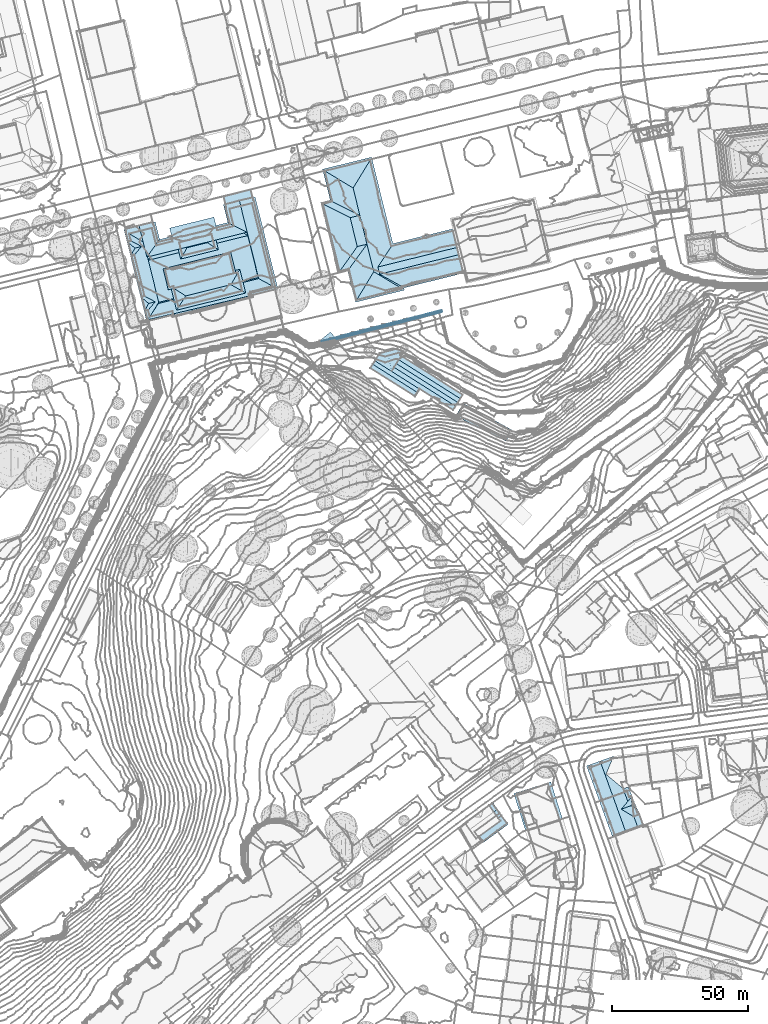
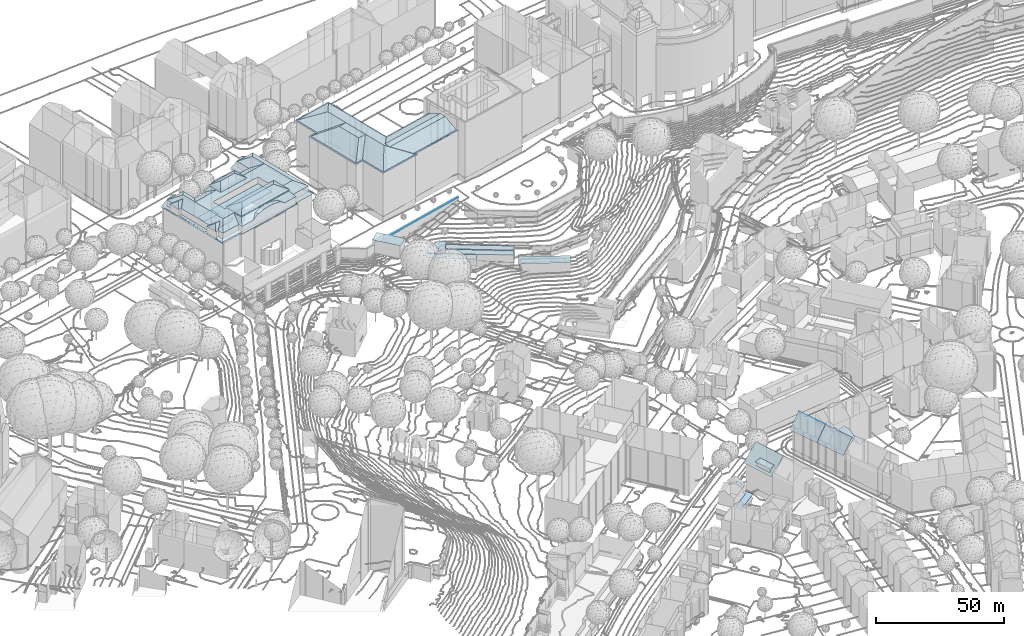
# Not in any storey, part 78 of 477: 21 roofs.
"""IFC4 building model written with IfcOpenShell, lengths in metres."""

from ifc_helpers import new_model, si_unit, frame, origin_with_axes, place, context, subcontext, project, spatial, polygons, element, save


model = new_model("IFC4")

# Units and contexts
model_context = context("Model", 3, precision=1e-05, world=origin_with_axes())
body_context = subcontext(model_context, "Body", "Model", "MODEL_VIEW")
ifc_project = project(units=[si_unit("AREAUNIT", "SQUARE_METRE"), si_unit("LENGTHUNIT", "METRE")], contexts=[model_context])

# Sites, building
site_1_placement = place(None, origin_with_axes())
site_1 = spatial("IfcSite", under=ifc_project, at=site_1_placement, Name="Topoexport Site")
site_2_placement = place(site_1_placement, origin_with_axes())
site_2 = spatial("IfcSite", under=site_1, at=site_2_placement, Name="TPX_BUILDINGS")
building_1_placement = place(site_2_placement, frame((211.8297320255, 101.9383160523, 526.7541), z_axis=(0.0, 0.0, 1.0), x_axis=(1.0, 0.0, 0.0)))
building_1 = spatial("IfcBuilding", under=site_2, at=building_1_placement, Name="Building 18", CompositionType="ELEMENT")

# Roof
roof_1_placement = place(None, frame((211.8297320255, 101.9383160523, 526.7541), z_axis=(0.0, 0.0, 1.0), x_axis=(1.0, 0.0, 0.0)))
element("IfcRoof", 1, at=roof_1_placement, inside=building_1, Name="Roof 59", context=body_context, shape_type="Tessellation", body=[
    polygons([(205.8740000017, 229.5947000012, 13.5498), (166.9350000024, 219.5927999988, 13.5499), (166.575000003, 220.0331999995, 13.5499), (169.6170000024, 220.9891999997, 13.5499), (161.3360000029, 218.8623000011, 13.5499), (205.7030000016, 230.2597000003, 13.5498)], [[[3, 2, 1]], [[5, 3, 4]], [[3, 6, 4]], [[6, 3, 1]]]),
])

# Building
building_2_placement = place(site_2_placement, frame((424.3367320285, 142.6277160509, 499.4686), z_axis=(0.0, 0.0, 1.0), x_axis=(1.0, 0.0, 0.0)))
building_2 = spatial("IfcBuilding", under=site_2, at=building_2_placement, Name="Building 62", CompositionType="ELEMENT")

# Roofs
roof_2_placement = place(None, frame((424.3367320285, 142.6277160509, 499.4686), z_axis=(0.0, 0.0, 1.0), x_axis=(1.0, 0.0, 0.0)))
element("IfcRoof", 2, at=roof_2_placement, inside=building_2, Name="Roof 1", context=body_context, shape_type="Tessellation", body=[
    polygons([(7.868999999, -4.5262999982, 5.2045), (8.1849999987, -5.5594999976, 5.0315), (7.9599999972, -5.2518999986, 5.0955), (7.5859999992, -4.740199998, 5.2025), (14.675999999, 2.452200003, 5.4764), (6.9169999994, -3.2236000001, 5.4764), (17.4479999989, 1.2159000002, 5.0315), (15.050999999, 4.3672000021, 5.7004), (14.4489999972, 5.3145000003, 5.8894), (13.8949999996, 3.5215000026, 5.7004), (14.3859999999, 5.2675999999, 5.8894), (7.8849999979, -5.1503999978, 5.1075)], [[[3, 2, 1]], [[1, 4, 3]], [[6, 1, 5]], [[2, 7, 1]], [[5, 7, 8]], [[7, 5, 1]], [[8, 7, 9]], [[5, 8, 10]], [[11, 8, 9]], [[4, 12, 3]]]),
])
roof_3_placement = place(None, frame((424.3367320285, 142.6277160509, 499.4686), z_axis=(0.0, 0.0, 1.0), x_axis=(1.0, 0.0, 0.0)))
element("IfcRoof", 3, at=roof_3_placement, inside=building_2, Name="Roof 3", context=body_context, shape_type="Tessellation", body=[
    polygons([(11.8349999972, 8.7226999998, 7.8742), (12.2349999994, 5.7920000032, 9.1091), (10.3319999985, 8.3916000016, 7.6103), (11.75, 9.3476999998, 7.6103), (13.6119999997, 6.8008000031, 9.1091), (15.2739999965, 4.5313000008, 7.6102), (15.0859999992, 4.3925999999, 7.6102), (15.050999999, 4.3672000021, 7.6102), (13.8949999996, 3.5215000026, 7.6102)], [[[3, 2, 1]], [[4, 3, 1]], [[2, 5, 1]], [[5, 4, 1]], [[7, 6, 5]], [[8, 7, 5]], [[5, 9, 8]], [[2, 9, 5]]]),
])

# Building
building_3_placement = place(site_2_placement, frame((444.9497320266, 154.9236160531, 498.9646), z_axis=(0.0, 0.0, 1.0), x_axis=(1.0, 0.0, 0.0)))
building_3 = spatial("IfcBuilding", under=site_2, at=building_3_placement, Name="Building 70", CompositionType="ELEMENT")

# Roof
roof_4_placement = place(None, frame((444.9497320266, 154.9236160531, 498.9646), z_axis=(0.0, 0.0, 1.0), x_axis=(1.0, 0.0, 0.0)))
element("IfcRoof", 4, at=roof_4_placement, inside=building_3, Name="Roof 0", context=body_context, shape_type="Tessellation", body=[
    polygons([(0.2419999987, 0.6563000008, 13.9397), (1.8170000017, -5.2655999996, 13.7497), (-1.1059999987, 0.2314999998, 12.9798), (0.4070000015, 0.1338, 13.9397), (2.0839999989, -5.1816000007, 13.9397), (4.2390000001, -13.3515000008, 13.6667), (3.3390000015, -13.8632000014, 12.9798), (4.3049999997, -13.558600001, 13.6667), (3.8170000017, -11.6053999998, 13.7497), (4.0839999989, -11.5214000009, 13.9397), (4.6229999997, -13.2303999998, 13.9397), (7.1570000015, -12.4306000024, 16.5164), (10.1180000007, -11.7256000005, 19.4591), (7.2230000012, -12.6385999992, 16.5164), (10.0529999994, -11.5175000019, 19.4591), (4.0029999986, -4.0516999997, 16.0445), (6.3040000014, -11.3456999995, 16.0445), (6.0729999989, -11.4189000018, 15.8095), (5.9230000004, -10.9422999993, 15.8095), (5.6719999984, 2.3691999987, 19.4592), (5.813000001, 1.9208999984, 19.4592), (3.7719999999, -4.125, 15.8095), (3.9230000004, -4.6006000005, 15.8095), (12.8110000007, -10.6493999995, 16.6554), (12.8770000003, -10.8553999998, 16.6554), (11.2199999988, 3.7080000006, 13.9397), (15.4829999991, -9.8056000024, 13.9397), (11.1020000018, 4.0810999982, 13.9397), (15.8880000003, -9.9061999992, 13.6977), (15.8229999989, -9.6992000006, 13.6967), (16.8960000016, -9.5879000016, 12.9798), (12.4510000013, 4.5068999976, 12.9798), (3.4910000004, -12.2334000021, 15.6195), (1.1900000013, -4.9384000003, 15.6195)], [[[3, 2, 1]], [[1, 2, 4]], [[5, 4, 2]], [[2, 3, 6]], [[8, 6, 7]], [[9, 2, 6]], [[9, 11, 10]], [[9, 6, 11]], [[6, 3, 7]], [[14, 13, 12]], [[15, 12, 13]], [[17, 12, 16]], [[17, 18, 12]], [[12, 18, 11]], [[11, 18, 10]], [[10, 18, 19]], [[16, 12, 15]], [[21, 20, 16]], [[16, 20, 1]], [[16, 4, 22]], [[4, 16, 1]], [[22, 4, 5]], [[23, 22, 5]], [[16, 15, 21]], [[13, 24, 15]], [[24, 13, 25]], [[27, 26, 24]], [[26, 28, 20]], [[21, 15, 24]], [[21, 26, 20]], [[21, 24, 26]], [[31, 30, 29]], [[30, 32, 26]], [[32, 30, 31]], [[26, 27, 30]], [[28, 26, 32]], [[16, 34, 33]], [[33, 17, 16]]]),
])

# Building
building_4_placement = place(site_2_placement, frame((423.4767320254, 293.5516160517, 522.4066), z_axis=(0.0, 0.0, 1.0), x_axis=(1.0, 0.0, 0.0)))
building_4 = spatial("IfcBuilding", under=site_2, at=building_4_placement, Name="Building 104", CompositionType="ELEMENT")

# Roof
roof_5_placement = place(None, frame((423.4767320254, 293.5516160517, 522.4066), z_axis=(0.0, 0.0, 1.0), x_axis=(1.0, 0.0, 0.0)))
element("IfcRoof", 5, at=roof_5_placement, inside=building_4, Name="Roof 0", context=body_context, shape_type="Tessellation", body=[
    polygons([(13.1080000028, -1.6152999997, 7.4133), (-0.9709999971, -0.1425999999, 7.4133), (1.8740000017, 4.5527000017, 7.4133), (19.5710000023, -5.1651000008, 7.4132), (17.5460000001, -9.4072999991, 7.4132)], [[[3, 2, 1]], [[1, 5, 4]], [[5, 1, 2]]]),
])

# Building
building_5_placement = place(site_2_placement, frame((300.9637320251, 364.7801160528, 537.8963), z_axis=(0.0, 0.0, 1.0), x_axis=(1.0, 0.0, 0.0)))
building_5 = spatial("IfcBuilding", under=site_2, at=building_5_placement, Name="Building 118", CompositionType="ELEMENT")

# Roofs
roof_6_placement = place(None, frame((300.9637320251, 364.7801160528, 537.8963), z_axis=(0.0, 0.0, 1.0), x_axis=(1.0, 0.0, 0.0)))
element("IfcRoof", 6, at=roof_6_placement, inside=building_5, Name="Roof 4", context=body_context, shape_type="Tessellation", body=[
    polygons([(17.1660000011, -23.8672000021, 26.9544), (42.5380000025, -17.5811000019, 26.9544), (41.8160000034, -18.8251999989, 27.5583), (18.3850000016, -24.6319000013, 27.5583), (39.2520000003, -23.246100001, 29.7051), (22.7170000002, -27.3438000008, 29.7051), (19.3300000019, -32.6015999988, 27.0464), (20.120000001, -31.375, 27.6663), (43.432, -25.6006000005, 27.6663), (44.7020000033, -26.3154000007, 27.0463)], [[[3, 2, 1]], [[5, 3, 4]], [[5, 4, 6]], [[4, 3, 1]], [[4, 1, 7]], [[4, 8, 6]], [[8, 4, 7]], [[8, 7, 9]], [[6, 8, 5]], [[8, 9, 5]], [[9, 7, 10]], [[9, 10, 3]], [[9, 3, 5]], [[3, 10, 2]]]),
])
roof_7_placement = place(None, frame((300.9637320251, 364.7801160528, 537.8963), z_axis=(0.0, 0.0, 1.0), x_axis=(1.0, 0.0, 0.0)))
element("IfcRoof", 7, at=roof_7_placement, inside=building_5, Name="Roof 6", context=body_context, shape_type="Tessellation", body=[
    polygons([(14.3980000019, -17.4257999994, 22.8008), (39.1620000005, -11.2890999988, 22.8008), (41.068, -18.9824000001, 22.8008), (16.3040000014, -25.1182000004, 22.8008)], [[[3, 2, 1]], [[1, 4, 3]]]),
])
roof_8_placement = place(None, frame((300.9637320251, 364.7801160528, 537.8963), z_axis=(0.0, 0.0, 1.0), x_axis=(1.0, 0.0, 0.0)))
element("IfcRoof", 8, at=roof_8_placement, inside=building_5, Name="Roof 7", context=body_context, shape_type="Tessellation", body=[
    polygons([(47.2730000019, 8.683600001, 9.4711), (37.318, 6.2168000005, 9.4711), (36.6130000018, 9.0566000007, 9.4711), (46.5520000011, 11.5449000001, 9.4711)], [[[3, 2, 1]], [[1, 4, 3]]]),
])
roof_9_placement = place(None, frame((300.9637320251, 364.7801160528, 537.8963), z_axis=(0.0, 0.0, 1.0), x_axis=(1.0, 0.0, 0.0)))
element("IfcRoof", 9, at=roof_9_placement, inside=building_5, Name="Roof 8", context=body_context, shape_type="Tessellation", body=[
    polygons([(30.3570000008, -3.3018000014, 9.1961), (33.0390000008, 1.5088, 9.1961), (34.0020000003, -2.3808999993, 9.1961), (21.318, -5.7001999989, 9.1961), (30.3940000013, -3.4512000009, 9.1961), (16.824000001, -2.509800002, 9.1961), (21.2770000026, -5.5459000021, 9.1961), (17.7890000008, -6.4043000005, 9.1961)], [[[3, 2, 1]], [[5, 1, 4]], [[2, 6, 1]], [[6, 8, 7]], [[7, 4, 1]], [[6, 7, 1]]]),
])
roof_10_placement = place(None, frame((300.9637320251, 364.7801160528, 537.8963), z_axis=(0.0, 0.0, 1.0), x_axis=(1.0, 0.0, 0.0)))
element("IfcRoof", 10, at=roof_10_placement, inside=building_5, Name="Roof 9", context=body_context, shape_type="Tessellation", body=[
    polygons([(46.6380000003, -27.2558999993, 20.327), (46.6359999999, -27.246100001, 20.332), (47.3420000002, -27.0811000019, 20.327), (46.756000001, -27.7334000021, 20.327), (18.3710000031, -34.7675999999, 20.327), (40.6290000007, -29.5410000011, 20.327), (47.5280000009, -27.8320000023, 20.327), (24.6359999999, -33.8925999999, 20.327), (40.7200000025, -29.9072000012, 20.327), (17.6770000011, -34.4316999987, 20.327), (18.2520000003, -34.2881000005, 20.327), (17.8630000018, -35.182599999, 20.327), (24.5450000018, -33.5263999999, 20.327), (18.1600000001, -33.9151000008, 20.546), (8.814000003, -36.1044999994, 20.616), (8.3990000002, -36.7305000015, 20.327), (9.1710000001, -36.5390999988, 20.327), (1.6770000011, -7.4483000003, 20.6), (0.0460000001, -3.0186000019, 20.3271), (0.7080000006, -2.8544999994, 20.686), (2.0190000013, -4.5850000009, 21.138), (2.6680000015, -7.2021999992, 21.138), (2.943, -12.5283000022, 20.603), (5.6190000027, -1.6376999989, 23.3528), (6.0990000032, -3.5742000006, 23.3528), (3.9270000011, -12.2842000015, 21.138), (6.7240000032, -27.7089999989, 20.613), (7.6900000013, -27.4706999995, 21.1379), (7.9890000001, -32.7901000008, 20.617), (8.0850000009, -32.7666000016, 20.669), (8.949000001, -32.5527000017, 21.1359), (9.5480000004, -34.9688000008, 21.1359), (8.495000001, -32.6651000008, 20.889), (46.6380000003, -27.2558999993, 20.127), (46.6359999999, -27.246100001, 20.132), (46.7561000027, -27.7334000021, 20.127)], [[[3, 2, 1]], [[3, 1, 4]], [[6, 4, 5]], [[3, 4, 7]], [[6, 7, 4]], [[9, 6, 8]], [[11, 10, 5]], [[5, 10, 12]], [[5, 13, 6]], [[13, 8, 6]], [[12, 13, 5]], [[11, 14, 10]], [[10, 14, 15]], [[17, 15, 16]], [[15, 17, 10]], [[20, 19, 18]], [[22, 21, 18]], [[18, 21, 20]], [[23, 18, 19]], [[19, 16, 23]], [[20, 21, 24]], [[25, 24, 21]], [[23, 27, 26]], [[27, 28, 26]], [[30, 29, 16]], [[16, 29, 27]], [[30, 16, 15]], [[27, 23, 16]], [[15, 32, 31]], [[15, 31, 33]], [[30, 15, 33]], [[36, 35, 34]]]),
])
roof_11_placement = place(None, frame((300.9637320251, 364.7801160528, 537.8963), z_axis=(0.0, 0.0, 1.0), x_axis=(1.0, 0.0, 0.0)))
element("IfcRoof", 11, at=roof_11_placement, inside=building_5, Name="Roof 10", context=body_context, shape_type="Tessellation", body=[
    polygons([(18.2440000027, -23.875, 23.3527), (40.4450000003, -19.1308999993, 23.3527), (18.4200000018, -24.5859999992, 23.3527), (16.7770000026, -24.2382999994, 23.3527), (15.1810000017, -17.8007999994, 23.3527), (38.6730000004, -11.9785000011, 23.3527)], [[[3, 2, 1]], [[5, 4, 1]], [[2, 5, 1]], [[2, 6, 5]]]),
])
roof_12_placement = place(None, frame((300.9637320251, 364.7801160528, 537.8963), z_axis=(0.0, 0.0, 1.0), x_axis=(1.0, 0.0, 0.0)))
element("IfcRoof", 12, at=roof_12_placement, inside=building_5, Name="Roof 11", context=body_context, shape_type="Tessellation", body=[
    polygons([(40.2690000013, -1.5547000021, 21.2399), (8.4670000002, -13.1338, 23.3528), (11.8500000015, -8.4512000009, 21.157), (38.8990000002, -0.870099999, 20.656), (12.5890000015, -7.4287, 20.678), (13.1290000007, -6.6807000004, 20.327), (38.1280000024, -0.4862999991, 20.327), (45.2230000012, -4.0263999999, 23.3527), (48.1300000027, 8.8955000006, 20.327), (56.4830000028, -24.816399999, 20.327), (55.6579999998, -24.371100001, 20.6809), (54.5620000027, -23.7813000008, 21.1509), (49.4330000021, -21.0175999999, 23.3527), (47.2730000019, 8.683600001, 20.778), (42.375, 7.4697000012, 23.3528), (37.318, 6.2168000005, 20.741), (36.5160000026, 6.0175999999, 20.327), (10.6750000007, -0.3858000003, 20.759), (6.0990000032, -3.5742000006, 23.3528), (5.6190000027, -1.6376999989, 23.3528), (11.5170000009, -0.1768000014, 20.3271), (18.1550000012, -33.9169999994, 20.546), (9.5480000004, -34.9688000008, 21.1359), (8.814000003, -36.1044999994, 20.616), (12.6770000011, -30.1240000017, 23.3527), (55.5190000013, -25.0557000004, 20.327), (47.3420000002, -27.0811000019, 20.327)], [[[3, 2, 1]], [[6, 5, 4]], [[3, 4, 5]], [[4, 3, 1]], [[7, 6, 4]], [[1, 2, 8]], [[11, 10, 9]], [[13, 12, 8]], [[11, 14, 12]], [[14, 8, 12]], [[15, 8, 14]], [[14, 11, 9]], [[4, 1, 15]], [[7, 4, 15]], [[1, 8, 15]], [[17, 7, 16]], [[16, 7, 15]], [[20, 19, 18]], [[6, 21, 18]], [[18, 19, 3]], [[5, 18, 3]], [[6, 18, 5]], [[3, 19, 2]], [[13, 23, 22]], [[22, 23, 24]], [[25, 23, 13]], [[26, 10, 11]], [[26, 11, 27]], [[12, 13, 22]], [[12, 27, 11]], [[12, 22, 27]]]),
])
roof_13_placement = place(None, frame((300.9637320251, 364.7801160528, 537.8963), z_axis=(0.0, 0.0, 1.0), x_axis=(1.0, 0.0, 0.0)))
element("IfcRoof", 13, at=roof_13_placement, inside=building_5, Name="Roof 13", context=body_context, shape_type="Tessellation", body=[
    polygons([(1.7910000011, -7.9052999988, 24.1767), (6.4920000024, -9.2412, 25.7165), (4.0890000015, -9.8359999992, 25.7165), (2.6680000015, -7.2021999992, 23.8777), (1.3450000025, -7.5302999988, 23.8777), (1.6770000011, -7.4483000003, 23.8777), (9.5610000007, -35.0214999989, 23.8777), (11.5150000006, -29.5088, 25.7165), (12.8100000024, -29.6797000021, 26.4104), (8.9980000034, -14.2987999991, 26.4105), (7.6900000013, -27.4706999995, 23.8777), (8.949000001, -32.5527999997, 23.8777), (7.3859999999, -7.7930000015, 26.4105), (2.0190000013, -4.5850000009, 23.8777), (3.9270000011, -12.2842000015, 23.8777), (11.9610000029, -8.8984999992, 23.8777), (10.3790000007, -2.5146999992, 23.8777), (2.8500000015, -12.1533000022, 24.1817), (2.943, -12.5283000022, 23.8777), (2.6040000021, -12.6123000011, 23.8777), (7.9890000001, -32.7901000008, 23.8777), (7.626000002, -32.8808999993, 23.8777), (9.1110000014, -30.1044999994, 25.7165), (6.3660000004, -27.7987999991, 23.8777), (6.8470000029, -28.2021999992, 24.1997), (6.7240000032, -27.7089999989, 23.8777), (17.9210000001, -32.9501999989, 23.8777), (18.4539999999, -28.2802999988, 26.4104), (20.2630000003, -11.5078000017, 26.4105), (20.8410000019, -13.8418000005, 26.4104), (15.1810000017, -17.8007999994, 26.4104), (45.438000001, -5.2695000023, 26.4104), (34.6600000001, -10.4169999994, 26.4104), (34.0820000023, -8.0820000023, 26.4104), (38.6730000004, -11.9785000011, 26.4104), (16.7770000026, -24.2382999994, 26.4104), (18.4200000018, -24.5859999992, 26.4104), (18.3770000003, -24.5976999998, 26.4104), (18.2440000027, -23.875, 26.4104), (41.8080000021, -18.7919999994, 26.4104), (40.4450000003, -19.1308999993, 26.4104), (25.9299999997, -29.9862999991, 26.4104), (19.4600000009, -32.3368999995, 26.4104), (20.0600000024, -31.3905999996, 26.4104), (49.2490000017, -20.6493999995, 26.4104), (43.4110000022, -22.0967000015, 26.4104), (44.4170000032, -26.1533000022, 26.4104), (43.4910000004, -25.5850000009, 26.4104), (32.012000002, -29.2276000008, 26.4104), (31.7890000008, -28.5410000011, 26.4104), (32.5160000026, -31.2626999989, 26.4104), (34.1600000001, -28.7686000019, 26.3244), (34.6469999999, -30.7344000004, 26.3244), (29.8990000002, -29.8242000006, 26.3244), (30.3859999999, -31.7901000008, 26.3244), (26.6950000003, -32.7041000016, 25.6685), (24.2840000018, -33.3027999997, 23.8777), (26.3390000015, -31.2655999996, 25.6685), (38.3370000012, -29.8194000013, 25.6685), (37.9810000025, -28.3819000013, 25.6685), (40.7480000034, -29.2226999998, 23.8777), (43.8260000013, 1.2353000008, 26.4104), (38.7640000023, 4.5194999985, 23.8777), (47.0410000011, 6.5702999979, 23.8777), (54.5830000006, -23.8652999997, 23.8776), (46.3060000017, -25.9160000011, 23.8776), (34.0530000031, -7.9688000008, 26.3445), (33.9800000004, -8.1084000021, 26.4104), (33.6920000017, -8.1797000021, 26.4104), (34.3390000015, -3.3535000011, 23.8777), (40.3460000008, -1.8652000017, 23.8777), (20.7160000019, -5.6845999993, 24.3887), (21.6490000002, -5.0166000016, 25.3436), (21.7900000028, -5.5830000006, 25.3436), (21.9410000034, -6.1944000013, 25.3436), (20.0600000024, -5.4101999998, 23.8777), (24.4790000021, -6.0225000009, 25.8795), (24.0810000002, -4.4140999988, 25.8795), (30.9110000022, -2.7217000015, 23.8777), (30.3680000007, -3.3779000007, 24.4916), (29.3220000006, -3.1152999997, 25.3436), (30.2870000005, -3.4785000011, 24.5836), (29.4630000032, -3.682599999, 25.3436), (29.6140000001, -4.2930000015, 25.3436), (26.8900000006, -3.7188000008, 25.8795), (27.2880000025, -5.3262000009, 25.8795), (25.8980000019, -5.7314999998, 25.9505), (25.4850000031, -4.066399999, 25.9505), (19.1630000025, -7.0694000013, 26.5444), (32.9820000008, -3.6455000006, 26.5444), (32.268000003, -4.9228999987, 27.1734), (20.3920000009, -7.8662, 27.1734), (30.6400000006, -7.8368999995, 28.6072), (23.1920000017, -9.682599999, 28.6072), (20.8410000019, -13.8418000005, 26.5444), (21.557, -12.5742000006, 27.1734), (33.4350000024, -9.6319000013, 27.1724), (34.6600000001, -10.4169999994, 26.5444), (32.2520000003, -4.8564999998, 26.4104), (20.375, -7.7998000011, 26.4105), (19.8040000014, -7.6338, 26.4105), (21.5710000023, -12.628899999, 26.4104), (20.7350000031, -11.3905999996, 26.4105), (20.3650000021, -11.4824000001, 26.4105), (32.7609999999, -4.4237999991, 26.4105), (33.449000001, -9.6865000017, 26.4104), (34.5310000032, -10.3339999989, 26.4104), (20.9160000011, -13.7080000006, 26.4104), (17.9100000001, -7.4237999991, 23.8777), (20.2340000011, -11.3925999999, 26.3445), (18.3710000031, -34.7675999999, 23.8777), (18.0100000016, -6.3476999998, 24.3817), (17.6640000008, -6.432599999, 23.8777), (17.564000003, -6.0283000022, 23.8777), (46.756000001, -27.7334000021, 23.8776), (33.7430000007, -2.4589999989, 24.3916), (33.9930000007, -1.9580000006, 23.8777), (34.0950000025, -2.371100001, 23.8777), (20.120000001, -31.375, 26.2104), (43.4910000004, -25.5850000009, 26.2104)], [[[3, 2, 1]], [[1, 2, 4]], [[1, 6, 5]], [[6, 1, 4]], [[9, 8, 7]], [[11, 8, 10]], [[8, 12, 7]], [[8, 9, 10]], [[10, 13, 2]], [[2, 13, 14]], [[10, 2, 15]], [[14, 4, 2]], [[10, 15, 11]], [[17, 13, 16]], [[10, 16, 13]], [[17, 14, 13]], [[20, 19, 18]], [[18, 19, 2]], [[2, 3, 18]], [[2, 19, 15]], [[1, 5, 20]], [[1, 18, 3]], [[18, 1, 20]], [[22, 21, 8]], [[8, 23, 22]], [[8, 21, 12]], [[25, 24, 22]], [[22, 23, 25]], [[8, 11, 23]], [[23, 11, 25]], [[25, 26, 24]], [[26, 25, 11]], [[9, 7, 27]], [[27, 28, 9]], [[10, 30, 29]], [[30, 10, 31]], [[34, 33, 32]], [[33, 30, 35]], [[9, 36, 31]], [[39, 38, 37]], [[38, 39, 36]], [[35, 30, 31]], [[31, 10, 9]], [[40, 32, 35]], [[35, 32, 33]], [[40, 35, 41]], [[9, 28, 38]], [[44, 43, 42]], [[43, 38, 28]], [[44, 38, 43]], [[40, 46, 45]], [[46, 48, 47]], [[40, 45, 32]], [[48, 46, 40]], [[50, 42, 49]], [[48, 49, 47]], [[49, 48, 50]], [[42, 43, 49]], [[38, 36, 9]], [[53, 52, 51]], [[49, 51, 52]], [[51, 49, 54]], [[54, 55, 51]], [[58, 57, 56]], [[55, 54, 56]], [[58, 56, 54]], [[61, 60, 59]], [[59, 60, 53]], [[52, 53, 60]], [[64, 63, 62]], [[45, 65, 32]], [[32, 64, 62]], [[64, 32, 65]], [[46, 66, 45]], [[65, 45, 66]], [[69, 68, 67]], [[69, 67, 70]], [[32, 71, 67]], [[70, 67, 71]], [[67, 34, 32]], [[71, 32, 62]], [[62, 63, 71]], [[74, 73, 72]], [[74, 72, 75]], [[72, 73, 76]], [[74, 75, 77]], [[73, 74, 78]], [[77, 78, 74]], [[81, 80, 79]], [[81, 83, 82]], [[84, 82, 83]], [[81, 82, 80]], [[86, 81, 85]], [[83, 81, 86]], [[83, 86, 84]], [[88, 87, 86]], [[86, 85, 88]], [[88, 78, 77]], [[77, 87, 88]], [[91, 90, 89]], [[93, 91, 92]], [[92, 94, 93]], [[89, 92, 91]], [[92, 89, 95]], [[92, 96, 94]], [[96, 92, 95]], [[96, 97, 94]], [[97, 96, 95]], [[97, 93, 94]], [[98, 97, 95]], [[97, 98, 91]], [[97, 91, 93]], [[91, 98, 90]], [[101, 100, 99]], [[100, 103, 102]], [[103, 104, 102]], [[100, 101, 103]], [[99, 105, 101]], [[99, 69, 105]], [[107, 106, 102]], [[102, 108, 107]], [[102, 104, 108]], [[107, 68, 106]], [[68, 69, 106]], [[99, 106, 69]], [[16, 110, 109]], [[110, 16, 10]], [[110, 103, 109]], [[103, 110, 104]], [[29, 110, 10]], [[43, 28, 27]], [[27, 111, 43]], [[114, 113, 112]], [[112, 113, 109]], [[103, 101, 112]], [[103, 112, 109]], [[61, 115, 60]], [[60, 115, 47]], [[52, 60, 47]], [[49, 52, 47]], [[54, 49, 43]], [[58, 54, 43]], [[58, 111, 57]], [[111, 58, 43]], [[115, 66, 47]], [[46, 47, 66]], [[101, 75, 112]], [[75, 101, 77]], [[87, 77, 101]], [[101, 105, 87]], [[114, 112, 76]], [[72, 76, 112]], [[112, 75, 72]], [[84, 86, 105]], [[116, 84, 105]], [[84, 116, 82]], [[86, 87, 105]], [[79, 116, 117]], [[116, 79, 80]], [[80, 82, 116]], [[105, 69, 116]], [[116, 69, 70]], [[116, 118, 117]], [[118, 116, 70]], [[120, 119, 50]], [[50, 119, 42]]]),
])

# Building
building_6_placement = place(site_2_placement, frame((372.7347320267, 320.7049160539, 536.4583), z_axis=(0.0, 0.0, 1.0), x_axis=(1.0, 0.0, 0.0)))
building_6 = spatial("IfcBuilding", under=site_2, at=building_6_placement, Name="Building 119", CompositionType="ELEMENT")

# Roof
roof_14_placement = place(None, frame((372.7347320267, 320.7049160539, 536.4583), z_axis=(0.0, 0.0, 1.0), x_axis=(1.0, 0.0, 0.0)))
element("IfcRoof", 14, at=roof_14_placement, inside=building_6, Name="Roof 0", context=body_context, shape_type="Tessellation", body=[
    polygons([(3.9670000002, 3.5175999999, 5.9385), (11.4770000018, -5.6425999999, 5.9384), (7.2459999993, -9.067400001, 5.9384), (-0.2459999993, 0.0848999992, 5.9385)], [[[3, 2, 1]], [[1, 4, 3]]]),
])

# Building
building_7_placement = place(site_2_placement, frame((391.3277320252, 310.9148160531, 527.1172), z_axis=(0.0, 0.0, 1.0), x_axis=(1.0, 0.0, 0.0)))
building_7 = spatial("IfcBuilding", under=site_2, at=building_7_placement, Name="Building 120", CompositionType="ELEMENT")

# Roof
roof_15_placement = place(None, frame((391.3277320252, 310.9148160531, 527.1172), z_axis=(0.0, 0.0, 1.0), x_axis=(1.0, 0.0, 0.0)))
element("IfcRoof", 15, at=roof_15_placement, inside=building_7, Name="Roof 0", context=body_context, shape_type="Tessellation", body=[
    polygons([(9.5300000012, 1.6796999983, 6.0964), (32.0840000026, -12.5615000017, 6.0964), (31.2369999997, -13.9023000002, 6.9823), (8.6830000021, 0.3378999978, 6.9823), (18.0890000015, -7.6561999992, 6.0964), (30.3090000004, -15.3720000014, 6.0964), (7.7550000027, -1.1308000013, 6.0964), (6.700000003, 4.2256000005, 6.6644), (4.3859999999, 5.6865999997, 6.6644), (8.2710000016, 6.7128999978, 6.6644), (9.9020000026, 7.1435999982, 6.4904), (11.2880000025, 4.4638999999, 6.0964), (12.0410000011, 5.6563000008, 6.0964), (11.0810000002, 4.1347999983, 6.0964), (9.3390000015, 1.3770000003, 6.0964), (7.9640000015, -0.7987999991, 6.0964), (9.7420000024, 2.0156999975, 6.0964), (33.8420000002, -9.7773000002, 6.0964), (10.4189999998, 3.0869999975, 6.9343), (32.9730000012, -11.1543000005, 6.9343), (0.9010000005, 1.4267999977, 6.9543), (1.700000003, 2.691399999, 6.0964), (17.2910000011, -8.9199000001, 6.9543), (3.4290000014, 5.433600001, 6.5614), (16.3900000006, -10.3465999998, 6.0964), (0.0, 9.9998e-05, 6.0964)], [[[3, 2, 1]], [[1, 4, 3]], [[6, 3, 5]], [[5, 4, 7]], [[4, 5, 3]], [[10, 9, 8]], [[12, 11, 10]], [[12, 10, 8]], [[12, 13, 11]], [[14, 12, 8]], [[8, 16, 15]], [[14, 8, 17]], [[1, 8, 15]], [[8, 1, 17]], [[16, 8, 7]], [[12, 19, 18]], [[20, 18, 19]], [[2, 20, 19]], [[19, 1, 2]], [[22, 21, 7]], [[7, 23, 5]], [[23, 7, 21]], [[24, 22, 7]], [[24, 8, 9]], [[8, 24, 7]], [[21, 26, 25]], [[25, 23, 21]]]),
])

# Building
building_8_placement = place(site_2_placement, frame((475.9607320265, 152.5359160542, 499.4976), z_axis=(0.0, 0.0, 1.0), x_axis=(1.0, 0.0, 0.0)))
building_8 = spatial("IfcBuilding", under=site_2, at=building_8_placement, Name="Building 127", CompositionType="ELEMENT")

# Roofs
roof_16_placement = place(None, frame((475.9607320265, 152.5359160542, 499.4976), z_axis=(0.0, 0.0, 1.0), x_axis=(1.0, 0.0, 0.0)))
element("IfcRoof", 16, at=roof_16_placement, inside=building_8, Name="Roof 0", context=body_context, shape_type="Tessellation", body=[
    polygons([(13.0819999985, -3.071200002, 15.3145), (13.5419999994, -4.2285000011, 13.9276), (12.5850000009, -2.8017000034, 15.8534), (10.8319999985, -1.8554000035, 17.7542), (13.1119999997, -4.2578000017, 14.1386), (13.2010000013, -4.3515000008, 13.9976), (13.8729999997, -5.0605000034, 12.9307), (7.2580000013, -3.1504000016, 17.7112), (11.870000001, -5.8955000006, 12.7847), (11.1600000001, 1.1338, 13.5436), (11.0599999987, 1.4120999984, 13.0807), (11.2109999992, 1.5937999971, 12.8967), (11.7259999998, -0.4287, 15.7334), (11.9109999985, -0.1318000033, 15.3145)], [[[3, 2, 1]], [[2, 3, 4]], [[6, 2, 5]], [[2, 6, 7]], [[5, 2, 4]], [[8, 5, 4]], [[5, 8, 9]], [[6, 9, 7]], [[9, 6, 5]], [[12, 11, 10]], [[10, 8, 4]], [[8, 10, 11]], [[12, 10, 13]], [[12, 13, 14]], [[13, 10, 4]], [[3, 1, 14]], [[13, 4, 3]], [[14, 13, 3]]]),
])
roof_17_placement = place(None, frame((475.9607320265, 152.5359160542, 499.4976), z_axis=(0.0, 0.0, 1.0), x_axis=(1.0, 0.0, 0.0)))
element("IfcRoof", 17, at=roof_17_placement, inside=building_8, Name="Roof 1", context=body_context, shape_type="Tessellation", body=[
    polygons([(8.3819999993, 3.0361999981, 12.5987), (9.4239999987, 3.4130999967, 12.5967), (9.6680000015, -0.2578000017, 12.5737), (10.1860000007, 3.6884999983, 12.5947), (10.6689999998, 0.9423999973, 12.5767), (11.0599999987, 1.4120999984, 12.5957), (10.3920000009, 3.7626999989, 12.6027), (11.2109999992, 1.5937999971, 12.6027), (11.2809999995, 0.8017999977, 12.5947), (15.0579999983, -8.9638000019, 12.6027), (11.870000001, -5.8955000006, 12.5307), (15.3020000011, -8.875, 12.6027), (13.2730000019, -9.6113000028, 12.5027), (13.8729999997, -5.0605000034, 12.6027), (0.0, 0.0, 13.3957), (8.8150000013, -11.2343000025, 18.5301), (4.7390000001, -12.7187000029, 13.5126), (-0.7190000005, -0.2597000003, 12.5107), (3.9250000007, -13.0166000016, 12.5107), (1.7479999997, 0.6328999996, 15.5464), (4.2050000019, 1.5224999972, 18.5252), (7.2580000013, -3.1504000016, 16.9023), (6.4640000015, 2.3408999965, 15.4795), (8.8300000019, -1.2646000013, 14.1886), (4.4210000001, 1.6005999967, 18.2632), (10.5179999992, -10.6123000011, 16.1894)], [[[3, 2, 1]], [[2, 5, 4]], [[5, 2, 3]], [[8, 7, 6]], [[4, 5, 6]], [[6, 9, 8]], [[4, 6, 7]], [[12, 11, 10]], [[10, 11, 13]], [[11, 12, 14]], [[17, 16, 15]], [[19, 17, 18]], [[15, 18, 17]], [[20, 15, 16]], [[20, 16, 21]], [[24, 23, 22]], [[22, 23, 25]], [[16, 22, 25]], [[11, 22, 16]], [[16, 25, 21]], [[1, 23, 3]], [[24, 3, 23]], [[11, 26, 13]], [[26, 11, 16]]]),
])

# Building
building_9_placement = place(site_2_placement, frame((471.492732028, 164.8240160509, 499.4976), z_axis=(0.0, 0.0, 1.0), x_axis=(1.0, 0.0, 0.0)))
building_9 = spatial("IfcBuilding", under=site_2, at=building_9_placement, Name="Building 131", CompositionType="ELEMENT")

# Roofs
roof_18_placement = place(None, frame((471.492732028, 164.8240160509, 499.4976), z_axis=(0.0, 0.0, 1.0), x_axis=(1.0, 0.0, 0.0)))
element("IfcRoof", 18, at=roof_18_placement, inside=building_9, Name="Roof 1", context=body_context, shape_type="Tessellation", body=[
    polygons([(3.748999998, -12.547799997, 12.5107), (-0.9700000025, 0.4131000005, 12.5118), (2.061999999, -4.6796999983, 13.7926), (6.2159999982, -11.6551999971, 15.5464), (4.4679999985, -12.2880999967, 13.3957), (4.2079999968, 1.5888999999, 18.5192), (8.6730000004, -10.7655999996, 18.5252), (3.9809999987, 2.2158000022, 18.5192)], [[[3, 2, 1]], [[5, 4, 3]], [[5, 3, 1]], [[3, 4, 6]], [[6, 4, 7]], [[8, 2, 3]], [[8, 3, 6]]]),
])
roof_19_placement = place(None, frame((471.492732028, 164.8240160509, 499.4976), z_axis=(0.0, 0.0, 1.0), x_axis=(1.0, 0.0, 0.0)))
element("IfcRoof", 19, at=roof_19_placement, inside=building_9, Name="Roof 2", context=body_context, shape_type="Tessellation", body=[
    polygons([(13.8919999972, -8.875, 12.5967), (14.4529999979, -7.4481999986, 12.6027), (14.6549999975, -8.5995999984, 12.5947), (12.5149999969, -7.7030999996, 12.6097), (12.2579999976, -7.7372999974, 12.6107), (12.8499999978, -9.2518999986, 12.5987), (14.8599999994, -8.5253999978, 12.6027), (10.932, -9.9472000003, 15.4795), (6.1339999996, -2.6376999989, 18.0962), (8.8889999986, -10.6875, 18.2632), (8.6730000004, -10.7655999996, 18.5252), (4.2520000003, 1.6055000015, 18.4662), (4.2079999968, 1.5888999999, 18.5192), (3.9809999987, 2.2158000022, 18.5192), (7.9859999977, 1.7851999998, 14.1636), (8.9149999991, 4.004900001, 12.1898), (8.5969999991, 3.246100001, 12.8647)], [[[3, 2, 1]], [[1, 2, 4]], [[6, 4, 5]], [[4, 6, 1]], [[2, 3, 7]], [[8, 6, 5]], [[9, 8, 5]], [[8, 9, 10]], [[9, 11, 10]], [[13, 9, 12]], [[13, 11, 9]], [[12, 14, 13]], [[12, 9, 15]], [[14, 12, 16]], [[17, 16, 12]], [[15, 17, 12]]]),
])

# Building
building_10_placement = place(site_2_placement, frame((373.5987320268, 371.2869160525, 536.8784), z_axis=(0.0, 0.0, 1.0), x_axis=(1.0, 0.0, 0.0)))
building_10 = spatial("IfcBuilding", under=site_2, at=building_10_placement, Name="Building 210", CompositionType="ELEMENT")

# Roofs
roof_20_placement = place(None, frame((373.5987320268, 371.2869160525, 536.8784), z_axis=(0.0, 0.0, 1.0), x_axis=(1.0, 0.0, 0.0)))
element("IfcRoof", 20, at=roof_20_placement, inside=building_10, Name="Roof 5", context=body_context, shape_type="Tessellation", body=[
    polygons([(29.175999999, -30.3662, 23.7956), (29.3900000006, -31.2324000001, 23.7956), (21.0949999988, -25.9131000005, 27.0813), (18.9530000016, -25.0067999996, 27.9842), (20.443, -23.2675999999, 27.0813), (16.4649999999, -14.9199000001, 27.9842), (17.6680000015, 15.9248000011, 23.8377), (25.4609999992, -15.6660000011, 23.8376), (17.7320000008, 16.0302999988, 23.7957), (25.5260000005, -15.567400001, 23.7956), (11.3869999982, 5.6651000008, 27.9843), (13.8530000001, -4.3291000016, 27.9843), (12.686999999, -35.3524999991, 23.7956), (50.1359999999, -18.7490000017, 27.0813), (51.6400000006, -24.8467000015, 23.7846), (3.807, 0.6464999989, 23.7957), (1.0269999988, 11.9111000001, 23.7957), (10.300999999, -5.2060000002, 27.9843), (0.3960000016, -0.1942999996, 23.7957), (17.6469999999, 16.0088, 23.7957), (15.8819999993, 15.5742000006, 23.7957), (2.7659999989, 12.3418000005, 23.7957), (49.4829999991, -16.1035000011, 27.0813), (47.9979999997, -10.0839999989, 23.8266), (48.8590000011, -9.7890000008, 23.7846), (48.879999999, -9.8662, 23.8266), (9.8859999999, -23.9979999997, 23.7956), (12.9129999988, -15.7958999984, 27.9842), (6.4750000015, -24.8388999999, 23.7956)], [[[3, 2, 1]], [[3, 5, 4]], [[6, 4, 5]], [[3, 4, 2]], [[5, 8, 7]], [[10, 9, 7]], [[11, 5, 7]], [[6, 5, 12]], [[12, 5, 11]], [[8, 10, 7]], [[13, 2, 4]], [[15, 14, 1]], [[3, 1, 14]], [[12, 11, 16]], [[17, 16, 11]], [[18, 12, 16]], [[16, 19, 18]], [[9, 20, 7]], [[7, 20, 21]], [[21, 22, 11]], [[17, 11, 22]], [[21, 11, 7]], [[24, 8, 23]], [[10, 24, 25]], [[24, 10, 8]], [[8, 5, 23]], [[26, 25, 24]], [[14, 23, 3]], [[5, 3, 23]], [[27, 13, 4]], [[4, 6, 27]], [[29, 27, 28]], [[6, 28, 27]], [[28, 6, 18]], [[12, 18, 6]], [[18, 19, 28]], [[29, 28, 19]]]),
])
roof_21_placement = place(None, frame((373.5987320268, 371.2869160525, 536.8784), z_axis=(0.0, 0.0, 1.0), x_axis=(1.0, 0.0, 0.0)))
element("IfcRoof", 21, at=roof_21_placement, inside=building_10, Name="Roof 6", context=body_context, shape_type="Tessellation", body=[
    polygons([(51.6810000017, -25.0097000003, 23.5926), (52.2740000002, -24.8632999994, 23.5926), (52.4039999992, -25.3876999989, 23.5926), (35.3379999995, -28.8515000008, 23.5926), (29.9710000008, -30.9219000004, 23.5926), (51.6400000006, -24.8467000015, 23.5926), (48.6710000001, -9.0918000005, 23.5926), (48.879999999, -9.8662, 23.5926), (35.7390000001, -13.1083999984, 23.5926), (25.9670000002, -14.6942999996, 23.5926), (25.3680000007, -15.6893999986, 23.5926), (29.175999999, -30.3662, 23.5956), (29.3900000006, -31.2324000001, 23.5956), (30.1750000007, -31.7470999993, 23.5926), (9.4230000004, -24.8242000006, 23.5927), (12.686999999, -35.3524999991, 23.5956), (12.2250000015, -36.1757999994, 23.5926), (9.8859999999, -23.9979999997, 23.5957), (22.8079999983, -5.2685000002, 23.5927), (22.074000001, -2.7226000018, 23.5927), (22.6050000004, -5.316399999, 23.5927), (5.9120000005, -25.6904000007, 23.5927), (6.4750000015, -24.8388999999, 23.5957), (0.3960000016, -0.1942999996, 23.5957), (21.9010000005, -2.0097999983, 23.5927), (21.2670000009, 0.5507999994, 23.5927), (20.5650000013, 3.8506000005, 23.5927), (21.8000000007, -2.0331999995, 23.5927), (21.1649999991, 0.5273999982, 23.5927), (17.6469999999, 16.0088, 23.5957), (18.1530000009, 16.9726999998, 23.5927), (18.0700000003, 14.2949000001, 23.5927), (15.8819999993, 15.5742000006, 23.5957), (21.0949999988, 1.2646999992, 23.5927), (20.3539999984, 3.8027999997, 23.5927), (17.993999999, 14.2714999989, 23.5927), (20.9930000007, 1.2373000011, 23.5927), (-0.5240000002, 0.3916000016, 23.5927), (2.9880000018, 1.2588, 23.5927), (3.807, 0.6464999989, 23.5957), (0.2030000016, 12.5439999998, 23.5927), (1.0269999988, 11.9111000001, 23.5957), (15.8880000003, 15.5419999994, 23.5927), (2.7839999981, 12.2763999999, 23.5927), (2.7659999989, 12.3418000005, 23.5957), (21.9699999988, -2.7479999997, 23.5927)], [[[3, 2, 1]], [[1, 4, 3]], [[4, 5, 3]], [[4, 1, 6]], [[9, 8, 7]], [[10, 9, 7]], [[10, 11, 9]], [[13, 5, 12]], [[5, 13, 14]], [[5, 4, 12]], [[17, 16, 15]], [[17, 14, 16]], [[18, 15, 16]], [[16, 14, 13]], [[19, 11, 10]], [[21, 19, 20]], [[15, 23, 22]], [[23, 15, 18]], [[22, 23, 24]], [[27, 26, 25]], [[27, 19, 10]], [[20, 19, 25]], [[28, 25, 26]], [[26, 29, 28]], [[32, 31, 30]], [[31, 32, 27]], [[30, 31, 33]], [[35, 34, 27]], [[19, 27, 25]], [[36, 27, 32]], [[34, 35, 37]], [[26, 27, 34]], [[27, 10, 31]], [[24, 39, 38]], [[39, 24, 40]], [[39, 42, 41]], [[24, 38, 22]], [[45, 44, 43]], [[45, 43, 33]], [[42, 45, 41]], [[41, 45, 33]], [[33, 31, 41]], [[42, 39, 40]], [[20, 46, 21]]]),
])

save(model, "model.ifc")
